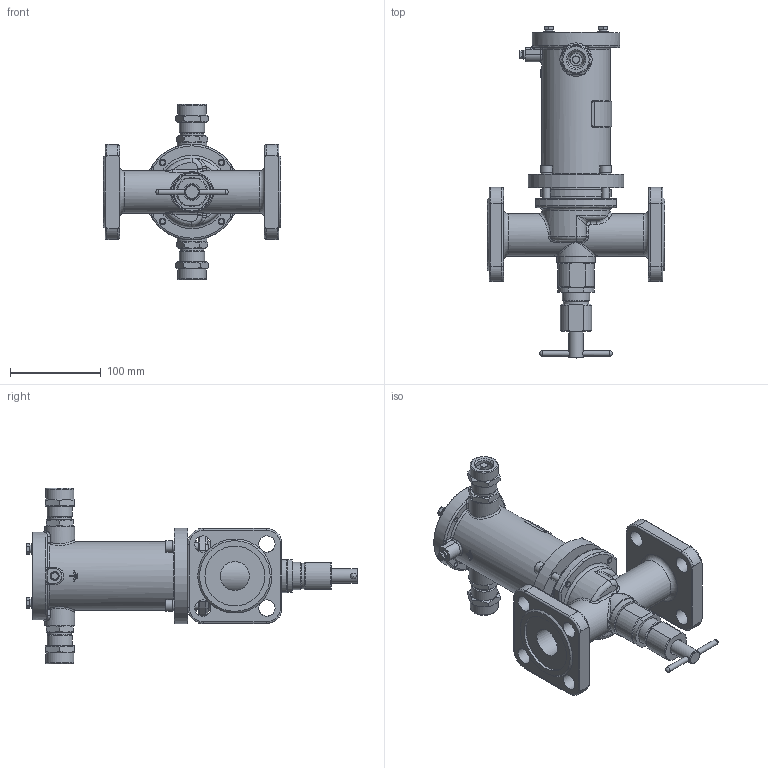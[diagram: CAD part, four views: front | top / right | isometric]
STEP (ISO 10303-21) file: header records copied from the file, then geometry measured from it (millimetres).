
FILE_DESCRIPTION(('STEP AP203'), '1');
FILE_NAME('ÑÅÍÑ-ÏÔ DN32PN25.stp', '2018-10-09T08:09:26', ('Îðëîâ Å.Â.'), ('ÎÎÎ ÍÏÏ Ñåíñîð'), 'ASCON STEP Converter 1.3', 'Kompas 3D', '');
FILE_SCHEMA(('CONFIG_CONTROL_DESIGN','SUPPORT_RESOURCE_SCHEMA'));
Length unit declared in the file: millimetre
Products named in the file (1): 66
Bounding box: 196 x 366.7 x 194 mm (x, y, z)
Volume: 1089361.9 mm3; surface area: 301317.1 mm2
Topology: 3 solids, 16 shells, 1971 faces, 5225 edges, 3387 vertices
Faces by surface type: cylinder 1003, plane 722, cone 126, torus 52, bspline 50, extrusion 16, sphere 2
Full cylindrical faces by diameter (mm): 3.3 x1, 3.5 x2, 4.134 x1, 4.917 x4, 5 x1, 6 x13, 6.2 x1, 6.5 x4, 8 x8, 9 x4, 10 x1, 12 x4, 13 x6, 16 x3, 17 x2, 18 x9, 18.632 x2, 19.9 x1, 20 x2, 21 x1, 22 x2, 22.376 x2, 23 x1, 23.5 x2, 24 x2, 24.5 x2, 26 x4, 26.376 x2, 27.8 x1, 28 x3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
Entity records: 75868 total; most frequent: CARTESIAN_POINT 25957, DIRECTION 10797, ORIENTED_EDGE 10376, EDGE_CURVE 5188, AXIS2_PLACEMENT_3D 4148, VERTEX_POINT 3379, VECTOR 2501, LINE 2485
